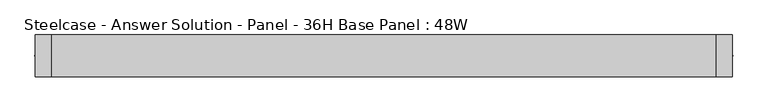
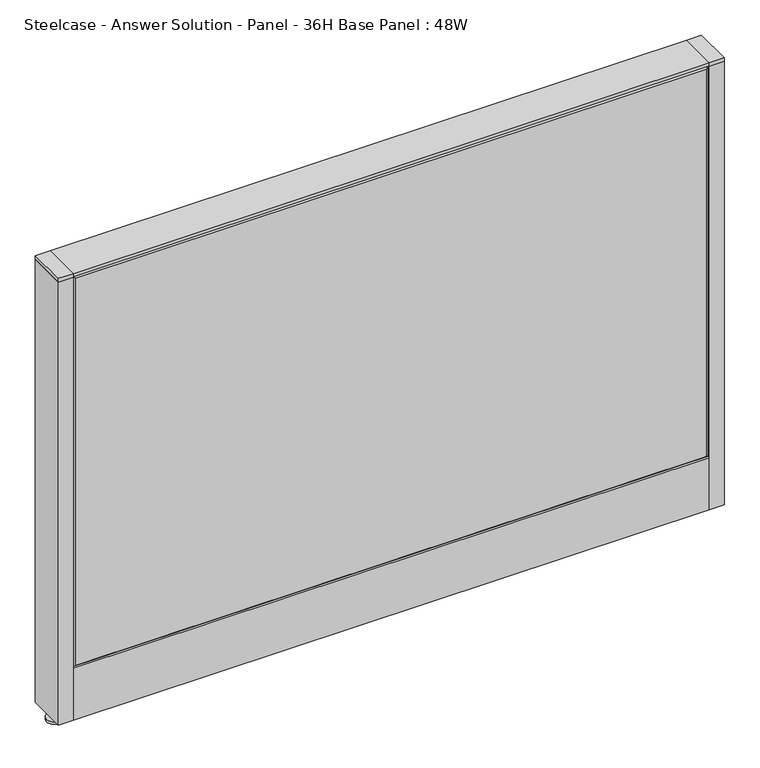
"""IFC4 building model written with IfcOpenShell, lengths in millimetres: furniture geometry, Steelcase - Answer Solution - Panel - 36H Base Panel : 48W."""

from ifc_helpers import new_model, si_unit, point, frame, frame_2d, origin, place, context, project, spatial, polyline, circle_curve, trimmed, segment, composite_curve, outline, extrude, faceted_brep, source, transform, mapped, element, save


def steelcase_answer_solution_panel_36h_base_panel_48w_ca0a0bd7(model_context):
    return source(origin(), model_context, "Body", "SolidModel", [
        extrude(outline(composite_curve([segment(trimmed(circle_curve(frame_2d((623.824, 0.0320214)), 5.08), [point((628.904, 0.0320214))], [point((618.744, 0.0320214))], False, "CARTESIAN"), True, "CONTINUOUS"), segment(trimmed(circle_curve(frame_2d((623.824, 0.0320214)), 5.08), [point((618.744, 0.0320214))], [point((628.904, 0.0320214))], False, "CARTESIAN"), True, "CONTINUOUS")], self_intersect=False)), frame((0.0, 0.0, 5.0799671), z_axis=(0.0, 0.0, 1.0), x_axis=(1.0, 0.0, 0.0)), (0.0, 0.0, 1.0), 10.414),
        extrude(outline(composite_curve([segment(trimmed(circle_curve(frame_2d((623.824, 0.0320214)), 15.24), [point((639.064, 0.0320214))], [point((608.584, 0.0320214))], False, "CARTESIAN"), True, "CONTINUOUS"), segment(trimmed(circle_curve(frame_2d((623.824, 0.0320214)), 15.24), [point((608.584, 0.0320214))], [point((639.064, 0.0320214))], False, "CARTESIAN"), True, "CONTINUOUS")], self_intersect=False)), frame((0.0, 0.0, -3.29e-05), z_axis=(0.0, 0.0, 1.0), x_axis=(1.0, 0.0, 0.0)), (0.0, 0.0, 1.0), 5.08),
        extrude(outline(polyline([(638.175, 38.1320408), (638.175, -38.0679592), (609.6, -38.0679592), (609.6, 38.1320408), (638.175, 38.1320408)])), frame((0.0, 0.0, 913.4348), z_axis=(0.0, 0.0, 1.0), x_axis=(1.0, 0.0, 0.0)), (0.0, 0.0, 1.0), 7.3151671),
        extrude(outline(polyline([(638.175, 38.1320408), (638.175, -38.0679592), (609.6, -38.0679592), (609.6, 38.1320408), (638.175, 38.1320408)])), frame((0.0, 0.0, 15.4939671), z_axis=(0.0, 0.0, 1.0), x_axis=(1.0, 0.0, 0.0)), (0.0, 0.0, 1.0), 897.9408329),
        extrude(outline(composite_curve([segment(trimmed(circle_curve(frame_2d((-623.824, -0.0320214)), 5.08), [point((-628.904, -0.0320214))], [point((-618.744, -0.0320214))], False, "CARTESIAN"), True, "CONTINUOUS"), segment(trimmed(circle_curve(frame_2d((-623.824, -0.0320214)), 5.08), [point((-618.744, -0.0320214))], [point((-628.904, -0.0320214))], False, "CARTESIAN"), True, "CONTINUOUS")], self_intersect=False)), frame((0.0, 0.0, 5.0799671), z_axis=(0.0, 0.0, 1.0), x_axis=(1.0, 0.0, 0.0)), (0.0, 0.0, 1.0), 10.414),
        extrude(outline(composite_curve([segment(trimmed(circle_curve(frame_2d((-623.824, -0.0320214)), 15.24), [point((-639.064, -0.0320214))], [point((-608.584, -0.0320214))], False, "CARTESIAN"), True, "CONTINUOUS"), segment(trimmed(circle_curve(frame_2d((-623.824, -0.0320214)), 15.24), [point((-608.584, -0.0320214))], [point((-639.064, -0.0320214))], False, "CARTESIAN"), True, "CONTINUOUS")], self_intersect=False)), frame((0.0, 0.0, -3.29e-05), z_axis=(0.0, 0.0, 1.0), x_axis=(1.0, 0.0, 0.0)), (0.0, 0.0, 1.0), 5.08),
        extrude(outline(polyline([(-638.175, -38.1320408), (-638.175, 38.0679592), (-609.6, 38.0679592), (-609.6, -38.1320408), (-638.175, -38.1320408)])), frame((0.0, 0.0, 913.4348), z_axis=(0.0, 0.0, 1.0), x_axis=(1.0, 0.0, 0.0)), (0.0, 0.0, 1.0), 7.3151671),
        extrude(outline(polyline([(-638.175, -38.1320408), (-638.175, 38.0679592), (-609.6, 38.0679592), (-609.6, -38.1320408), (-638.175, -38.1320408)])), frame((0.0, 0.0, 15.4939671), z_axis=(0.0, 0.0, 1.0), x_axis=(1.0, 0.0, 0.0)), (0.0, 0.0, 1.0), 897.9408329),
        faceted_brep([(604.774, 38.1635011, 909.574), (604.774, 38.1635011, 125.476), (-604.774, 38.1635011, 125.476), (-604.774, 38.1635011, 909.574), (609.6, 33.3375011, 914.4), (-609.6, 33.3375011, 914.4), (-609.6, 33.3375011, 120.65), (609.6, 33.3375011, 120.65)], [[[0, 1, 2, 3]], [[4, 5, 6, 7]], [[4, 0, 3, 5]], [[5, 3, 2, 6]], [[6, 2, 1, 7]], [[7, 1, 0, 4]]]),
        faceted_brep([(604.774, -38.1635011, 909.574), (-604.774, -38.1635011, 909.574), (-604.774, -38.1635011, 125.476), (604.774, -38.1635011, 125.476), (609.6, -33.3375011, 914.4), (609.6, -33.3375011, 120.65), (-609.6, -33.3375011, 120.65), (-609.6, -33.3375011, 914.4)], [[[0, 1, 2, 3]], [[4, 5, 6, 7]], [[4, 7, 1, 0]], [[7, 6, 2, 1]], [[6, 5, 3, 2]], [[5, 4, 0, 3]]]),
        extrude(outline(polyline([(609.6, 38.1000194), (609.6, -38.1000194), (-609.6, -38.1000194), (-609.6, 38.1000194), (609.6, 38.1000194)])), frame((0.0, 0.0, 914.4), z_axis=(0.0, 0.0, 1.0), x_axis=(1.0, 0.0, 0.0)), (0.0, 0.0, 1.0), 6.35),
        extrude(outline(polyline([(37.3075215, 119.8575157), (25.4000011, 119.8575157), (25.4000011, 120.65), (38.1000194, 120.65), (38.1000194, 15.494), (37.3075215, 15.494), (37.3075215, 119.8575157)])), frame((-609.6, 0.0, 0.0), z_axis=(1.0, 0.0, 0.0), x_axis=(0.0, 1.0, 0.0)), (0.0, 0.0, 1.0), 1219.2),
        extrude(outline(polyline([(-37.3075215, 119.8575157), (-37.3075215, 15.494), (-38.1000194, 15.494), (-38.1000194, 120.65), (-25.4000011, 120.65), (-25.4000011, 119.8575157), (-37.3075215, 119.8575157)])), frame((-609.6, 0.0, 0.0), z_axis=(1.0, 0.0, 0.0), x_axis=(0.0, 1.0, 0.0)), (0.0, 0.0, 1.0), 1219.2),
    ])


if __name__ == "__main__":
    model = new_model("IFC4")
    model_context = context("Model", 3, world=origin())
    ifc_project = project(units=[si_unit("LENGTHUNIT", "METRE", prefix="MILLI")], contexts=[model_context])
    site = spatial("IfcSite", under=ifc_project)
    building = spatial("IfcBuilding", under=site)
    placement = place(None, origin())
    steelcase_answer_solution_panel_36h_base_panel_48w_shape = steelcase_answer_solution_panel_36h_base_panel_48w_ca0a0bd7(model_context)
    element("IfcFurniture", 1, ObjectType="Steelcase - Answer Solution - Panel - 36H Base Panel : 48W", at=placement, inside=building, context=model_context, shape_type="MappedRepresentation", body=[
        mapped(steelcase_answer_solution_panel_36h_base_panel_48w_shape, transform((0.0, 0.0, 0.0), x_axis=(1.0, 0.0, 0.0), y_axis=(0.0, 1.0, 0.0), z_axis=(0.0, 0.0, 1.0))),
    ])
    save(model, "model.ifc")
